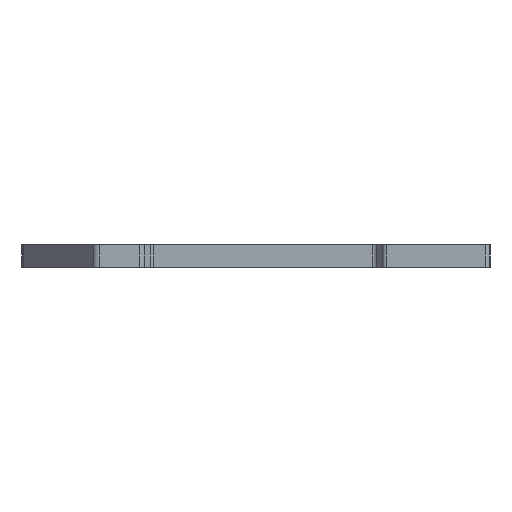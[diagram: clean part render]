
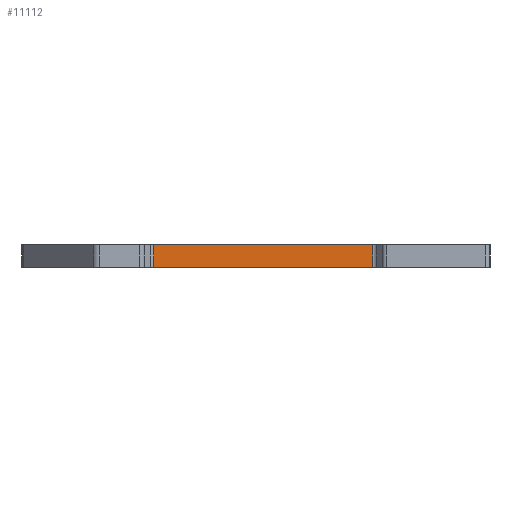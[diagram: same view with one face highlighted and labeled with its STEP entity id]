
A CAD part, left-side view. The second image highlights one B-rep face of the part: STEP entity #11112.
In plain terms, the highlighted planar face has unit normal (-1, 0, 0).
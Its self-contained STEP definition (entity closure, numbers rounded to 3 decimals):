
#18 = CARTESIAN_POINT ( 'NONE',  ( 2., 19.33, 1.5 ) ) ;
#560 = DIRECTION ( 'NONE',  ( 0., 0., -1. ) ) ;
#677 = CARTESIAN_POINT ( 'NONE',  ( 2., 19.33, 1.5 ) ) ;
#1047 = FACE_OUTER_BOUND ( 'NONE', #5751, .T. ) ;
#1092 = CARTESIAN_POINT ( 'NONE',  ( 2., 19.33, 0. ) ) ;
#1253 = VECTOR ( 'NONE', #11182, 1000. ) ;
#1303 = AXIS2_PLACEMENT_3D ( 'NONE', #18, #6464, #8313 ) ;
#1448 = EDGE_CURVE ( 'NONE', #11761, #9432, #1513, .T. ) ;
#1513 = LINE ( 'NONE', #10647, #7245 ) ;
#1848 = CARTESIAN_POINT ( 'NONE',  ( 2., 19.33, 1.5 ) ) ;
#1909 = ORIENTED_EDGE ( 'NONE', *, *, #9825, .T. ) ;
#2594 = VECTOR ( 'NONE', #6389, 1000. ) ;
#2930 = LINE ( 'NONE', #7537, #1253 ) ;
#3060 = CARTESIAN_POINT ( 'NONE',  ( 2., 19.33, 0. ) ) ;
#4635 = CARTESIAN_POINT ( 'NONE',  ( 2., 4.805, 1.5 ) ) ;
#5041 = EDGE_CURVE ( 'NONE', #5243, #10992, #2930, .T. ) ;
#5243 = VERTEX_POINT ( 'NONE', #677 ) ;
#5751 = EDGE_LOOP ( 'NONE', ( #1909, #7330, #10497, #9829 ) ) ;
#6389 = DIRECTION ( 'NONE',  ( 0., -1., 0. ) ) ;
#6464 = DIRECTION ( 'NONE',  ( 1., 0., 0. ) ) ;
#6559 = LINE ( 'NONE', #1092, #2594 ) ;
#7245 = VECTOR ( 'NONE', #560, 1000. ) ;
#7330 = ORIENTED_EDGE ( 'NONE', *, *, #1448, .F. ) ;
#7537 = CARTESIAN_POINT ( 'NONE',  ( 2., 19.33, 1.5 ) ) ;
#8164 = LINE ( 'NONE', #1848, #10958 ) ;
#8313 = DIRECTION ( 'NONE',  ( 0., 1., 0. ) ) ;
#8565 = EDGE_CURVE ( 'NONE', #5243, #11761, #8164, .T. ) ;
#9432 = VERTEX_POINT ( 'NONE', #10707 ) ;
#9825 = EDGE_CURVE ( 'NONE', #10992, #9432, #6559, .T. ) ;
#9829 = ORIENTED_EDGE ( 'NONE', *, *, #5041, .T. ) ;
#9935 = PLANE ( 'NONE',  #1303 ) ;
#10497 = ORIENTED_EDGE ( 'NONE', *, *, #8565, .F. ) ;
#10647 = CARTESIAN_POINT ( 'NONE',  ( 2., 4.805, 10. ) ) ;
#10707 = CARTESIAN_POINT ( 'NONE',  ( 2., 4.805, 0. ) ) ;
#10958 = VECTOR ( 'NONE', #10969, 1000. ) ;
#10969 = DIRECTION ( 'NONE',  ( 0., -1., 0. ) ) ;
#10992 = VERTEX_POINT ( 'NONE', #3060 ) ;
#11112 = ADVANCED_FACE ( 'NONE', ( #1047 ), #9935, .F. ) ;
#11182 = DIRECTION ( 'NONE',  ( 0., 0., -1. ) ) ;
#11761 = VERTEX_POINT ( 'NONE', #4635 ) ;
